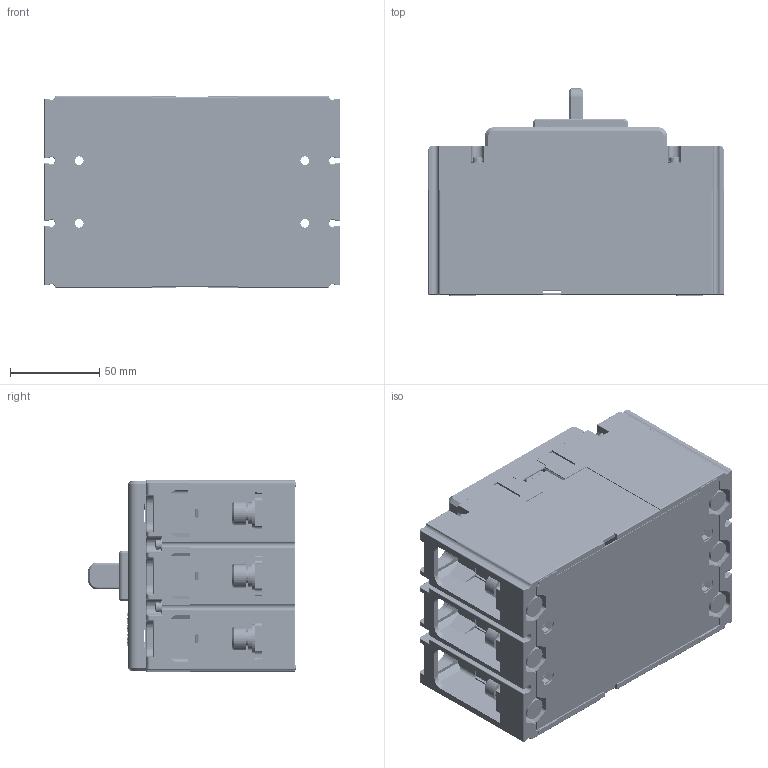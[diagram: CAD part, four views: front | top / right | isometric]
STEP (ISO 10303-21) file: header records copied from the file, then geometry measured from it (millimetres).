
FILE_DESCRIPTION((''),'2;1');
FILE_NAME('CDM3V-250F3P_ASM','2021-06-10T',('yan.shen'),(''),'PRO/ENGINEER BY PARAMETRIC TECHNOLOGY CORPORATION, 2015440','PRO/ENGINEER BY PARAMETRIC TECHNOLOGY CORPORATION, 2015440','');
FILE_SCHEMA(('CONFIG_CONTROL_DESIGN'));
Products named in the file (29): JZ-5024044500; GB_T809-M3X12; 5024044500_ASM; 8940007200; 8551033100; 8585064400; 8253076600; 5253029200_ASM; 8750029700; 8751002100; GB_T70_1-M8X20; 7090200704_GB_T97_1_8; 7090370701K_GB_T93_8; 5850004100_ASM; ZG-5315050000; GB_T809-M3X8; 5315050000_ASM; 8282018100_AF0; 8253077300; 5315051200_ASM; 8315095900; 7010100305R01_GB_T823_M3X10; 7090300201_GB_T93_3; GB_T97_4_3; 5850007700_ASM; 5315051400_ASM; 8742102700; 7030100225_GB_T9074_4-M3X30; CDM3V-250F3P_ASM
Assembly tree (66 placements, depth 5):
  CDM3V-250F3P_ASM
    5024044500_ASM
      JZ-5024044500
      GB_T809-M3X12  x8
    8940007200  x6
    8551033100  x3
    8585064400  x3
    5253029200_ASM
      8253076600
    8750029700  x3
    8751002100  x3
    5850004100_ASM  x6
      GB_T70_1-M8X20
      7090200704_GB_T97_1_8
      7090370701K_GB_T93_8
    5315051400_ASM
      5315051200_ASM
        5315050000_ASM
          ZG-5315050000
          GB_T809-M3X8  x4
        8282018100_AF0
        8253077300
      8315095900
      5850007700_ASM  x4
        7010100305R01_GB_T823_M3X10
        7090300201_GB_T93_3
        GB_T97_4_3
    8742102700
    7030100225_GB_T9074_4-M3X30  x8
Bounding box: 165 x 116 x 107 mm (x, y, z)
Volume: 549430.5 mm3; surface area: 373115.8 mm2
Topology: 75 solids, 117 shells, 7772 faces, 19906 edges, 12510 vertices
Faces by surface type: plane 3844, cylinder 2566, torus 557, cone 302, sphere 199, bspline 154, extrusion 150
Entity records: 222014 total; most frequent: CARTESIAN_POINT 60545, ORIENTED_EDGE 33846, DIRECTION 33353, EDGE_CURVE 16941, VECTOR 11251, LINE 11101, AXIS2_PLACEMENT_3D 11051, VERTEX_POINT 10653
